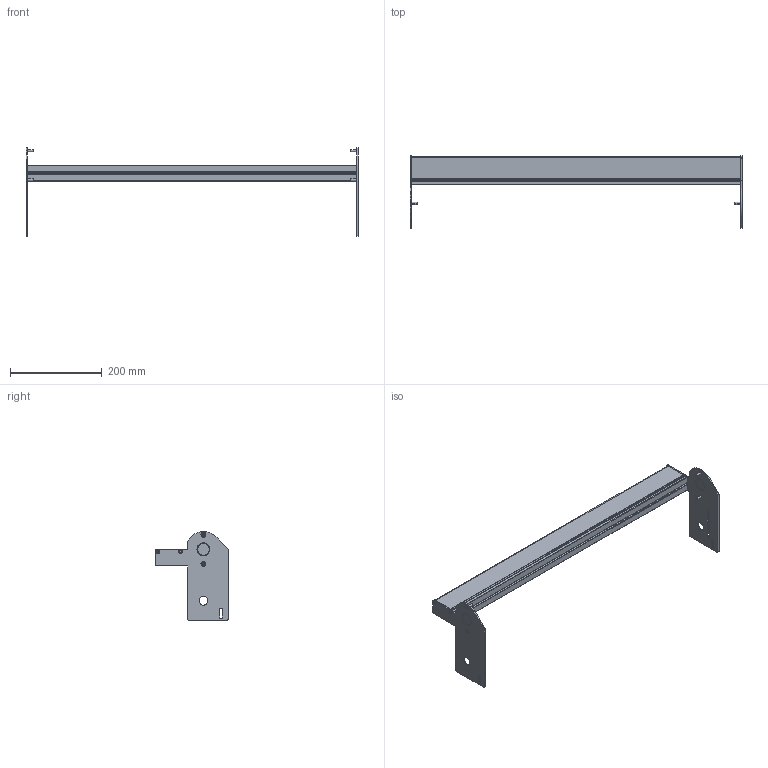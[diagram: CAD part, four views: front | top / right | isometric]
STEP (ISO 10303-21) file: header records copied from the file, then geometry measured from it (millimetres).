
FILE_DESCRIPTION((''),'2;1');
FILE_NAME('350712-28_ASM','2023-03-22T',('jenni.wallner'),(''),'PRO/ENGINEER BY PARAMETRIC TECHNOLOGY CORPORATION, 2012420','PRO/ENGINEER BY PARAMETRIC TECHNOLOGY CORPORATION, 2012420','');
FILE_SCHEMA(('CONFIG_CONTROL_DESIGN'));
Length unit declared in the file: inch
Products named in the file (6): 350669-28; 350667; 350668; 930412M; 930516M; 350712-28_ASM
Assembly tree (11 placements, depth 2):
  350712-28_ASM
    350669-28
    350667
    350668
    930412M  x4
    930516M  x4
Bounding box: 723.54 x 158.09 x 193.27 mm (x, y, z)
Volume: 678590.5 mm3; surface area: 442962.6 mm2
Topology: 11 solids, 11 shells, 334 faces, 872 edges, 568 vertices
Faces by surface type: plane 150, cylinder 136, cone 48
Entity records: 7773 total; most frequent: DIRECTION 1398, CARTESIAN_POINT 1317, ORIENTED_EDGE 1288, EDGE_CURVE 644, AXIS2_PLACEMENT_3D 505, VERTEX_POINT 424, VECTOR 388, LINE 388
